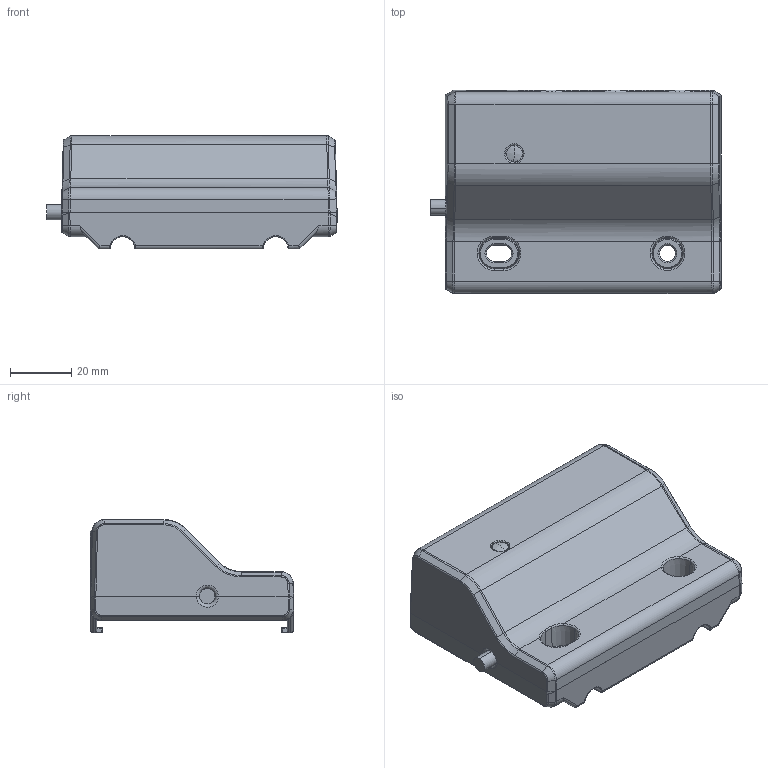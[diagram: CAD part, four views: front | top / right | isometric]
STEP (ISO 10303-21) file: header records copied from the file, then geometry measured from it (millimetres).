
FILE_DESCRIPTION (( 'STEP AP203' ), '1' );
FILE_NAME ('3D_TJB10.STEP', '2022-11-08T09:04:52', ( '' ), ( '' ), 'SwSTEP 2.0', 'SolidWorks 2015', '' );
FILE_SCHEMA (( 'CONFIG_CONTROL_DESIGN' ));
Products named in the file (1): 3D_TJB10
Bounding box: 94.73 x 66.4 x 37.15 mm (x, y, z)
Volume: 68409.6 mm3; surface area: 63507.7 mm2
Topology: 11 solids, 11 shells, 1346 faces, 3511 edges, 2226 vertices
Faces by surface type: plane 648, cylinder 403, cone 123, bspline 123, torus 35, sphere 14
Entity records: 52037 total; most frequent: CARTESIAN_POINT 20887, ORIENTED_EDGE 7010, DIRECTION 5803, EDGE_CURVE 3505, VERTEX_POINT 2226, LINE 1953, VECTOR 1953, AXIS2_PLACEMENT_3D 1925
